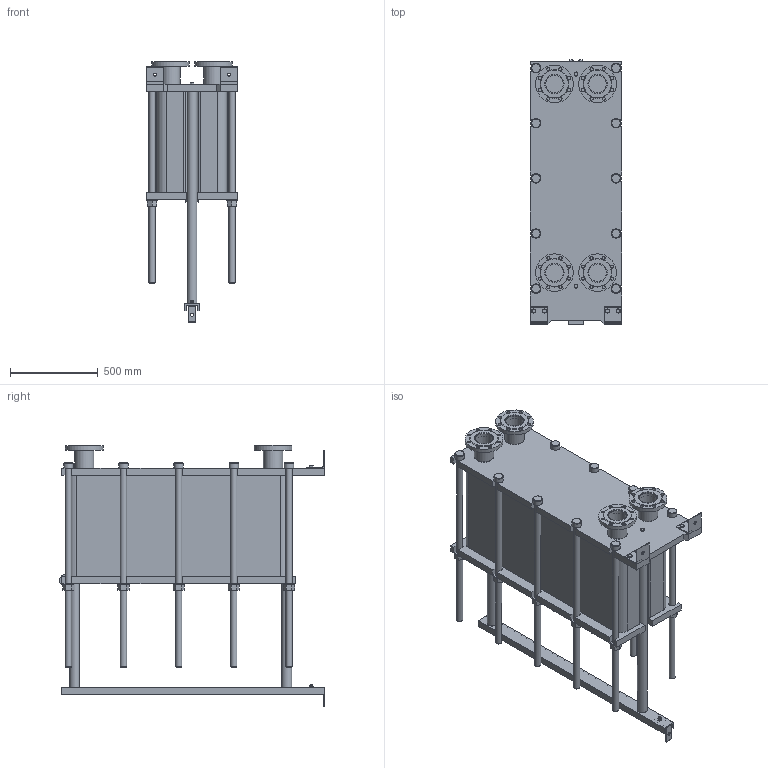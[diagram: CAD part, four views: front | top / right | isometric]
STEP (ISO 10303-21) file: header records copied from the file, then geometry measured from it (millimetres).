
FILE_DESCRIPTION(/* description */ (''),/* implementation_level */ '2;1');
FILE_NAME(/* name */ 'C:\Users\zhuro\Desktop\ENCO\TO\ЭН-04\ЭН-0,5-04-168-1.stp',/* time_stamp */ '2022-06-06T11:00:04+03:00',/* author */ ('zhuro'),/* organization */ (''),/* preprocessor_version */ 'ST-DEVELOPER v18.1',/* originating_system */ 'Autodesk Inventor 2022',/* authorisation */ '');
FILE_SCHEMA (('AUTOMOTIVE_DESIGN { 1 0 10303 214 3 1 1 }'));
Length unit declared in the file: millimetre
Products named in the file (1): ЭН-0,5-04-168-1
Bounding box: 520 x 1510 x 1489 mm (x, y, z)
Volume: 364525014.2 mm3; surface area: 9850588.4 mm2
Topology: 45 solids, 45 shells, 668 faces, 1611 edges, 1048 vertices
Faces by surface type: plane 457, cylinder 166, cone 39, torus 6
Full cylindrical faces by diameter (mm): 8 x4, 10 x2, 16 x8, 18 x35, 36 x25, 40 x2, 42 x1, 45 x4, 54 x10, 57 x2, 60 x10, 68 x2, 100 x4, 110 x8, 215 x4
Entity records: 23607 total; most frequent: CARTESIAN_POINT 7348, DIRECTION 3371, ORIENTED_EDGE 3142, EDGE_CURVE 1571, AXIS2_PLACEMENT_3D 1199, VERTEX_POINT 1044, LINE 973, VECTOR 973
